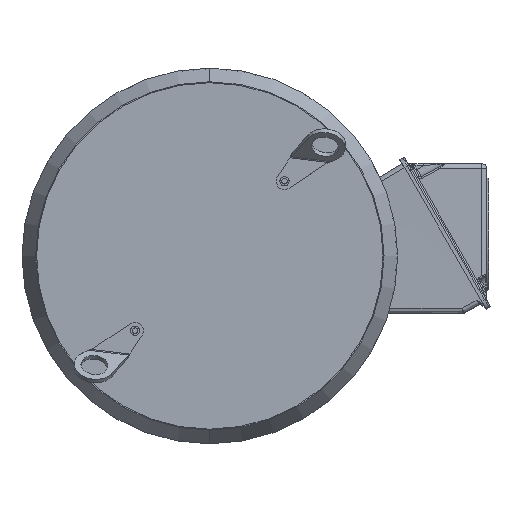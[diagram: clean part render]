
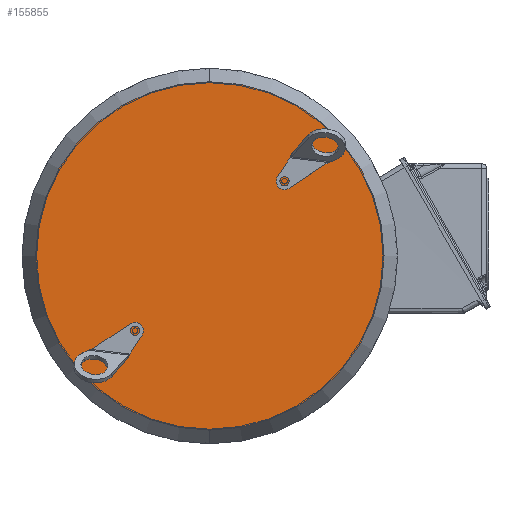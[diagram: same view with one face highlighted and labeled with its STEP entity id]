
A CAD part, top view. The second image highlights one B-rep face of the part: STEP entity #155855.
In plain terms, the highlighted planar face has unit normal (0, 0, 1).
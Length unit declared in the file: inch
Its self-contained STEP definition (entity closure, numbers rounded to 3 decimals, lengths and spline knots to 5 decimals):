
#155724=CARTESIAN_POINT('',(0.,0.,0.));
#155725=DIRECTION('',(0.,0.,-1.));
#155726=DIRECTION('',(0.,1.,0.));
#155727=AXIS2_PLACEMENT_3D('',#155724,#155725,#155726);
#155729=CARTESIAN_POINT('',(0.,0.,0.));
#155730=DIRECTION('',(0.,0.,1.));
#155731=DIRECTION('',(0.,1.,0.));
#155732=AXIS2_PLACEMENT_3D('',#155729,#155730,#155731);
#155740=CARTESIAN_POINT('',(0.,6.49193,0.));
#155741=VERTEX_POINT('',#155740);
#155748=CARTESIAN_POINT('',(0.,-6.49193,0.));
#155749=VERTEX_POINT('',#155748);
#155846=CARTESIAN_POINT('',(0.,0.,0.));
#155847=DIRECTION('',(0.,0.,1.));
#155848=DIRECTION('',(0.,1.,0.));
#155849=AXIS2_PLACEMENT_3D('',#155846,#155847,#155848);
#155850=PLANE('',#155849);
#155851=ORIENTED_EDGE('',*,*,#155828,.T.);
#155852=ORIENTED_EDGE('',*,*,#155839,.F.);
#155853=EDGE_LOOP('',(#155851,#155852));
#155854=FACE_OUTER_BOUND('',#155853,.F.);
#155855=ADVANCED_FACE('',(#155854),#155850,.T.);
#155728=CIRCLE('',#155727,6.49193);
#155733=CIRCLE('',#155732,6.49193);
#155828=EDGE_CURVE('',#155741,#155749,#155728,.T.);
#155839=EDGE_CURVE('',#155741,#155749,#155733,.T.);
